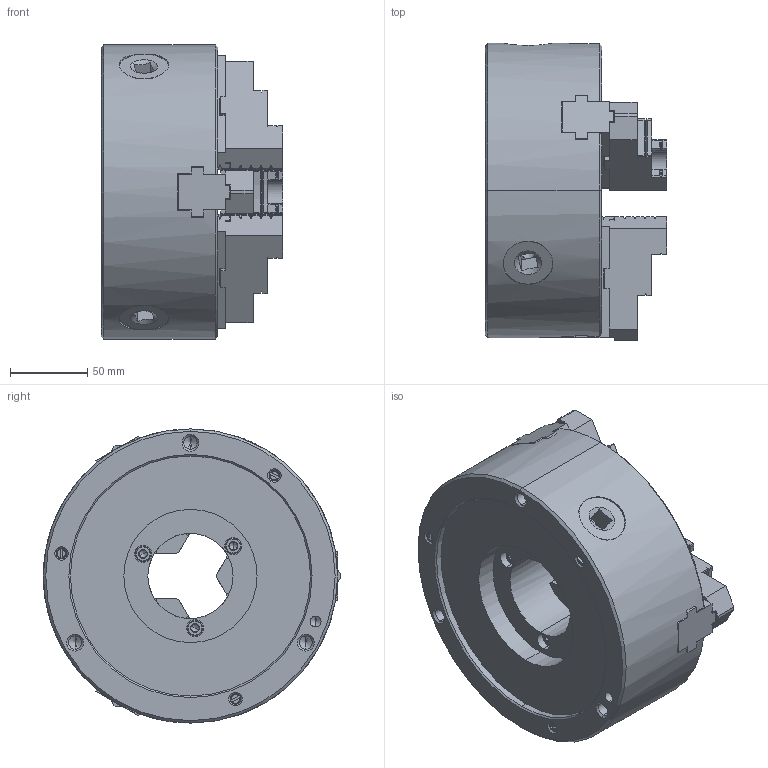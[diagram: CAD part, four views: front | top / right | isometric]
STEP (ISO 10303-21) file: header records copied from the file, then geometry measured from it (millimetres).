
FILE_DESCRIPTION (( 'STEP AP214' ), '1' );
FILE_NAME ('JN07T.STEP', '2025-02-19T05:46:24', ( '' ), ( '' ), 'SwSTEP 2.0', 'SolidWorks 2022', '' );
FILE_SCHEMA (( 'AUTOMOTIVE_DESIGN' ));
Length unit declared in the file: millimetre
Products named in the file (1): JN07T
Bounding box: 117 x 192 x 190 mm (x, y, z)
Volume: 1977786.2 mm3; surface area: 187296.7 mm2
Topology: 1 solids, 15 shells, 1334 faces, 3672 edges, 2384 vertices
Faces by surface type: plane 708, cylinder 238, cone 194, bspline 162, torus 28, sphere 4
Entity records: 64820 total; most frequent: CARTESIAN_POINT 17813, ORIENTED_EDGE 7254, DIRECTION 5832, EDGE_CURVE 3627, VERTEX_POINT 2381, VECTOR 2196, LINE 2196, AXIS2_PLACEMENT_3D 1818
